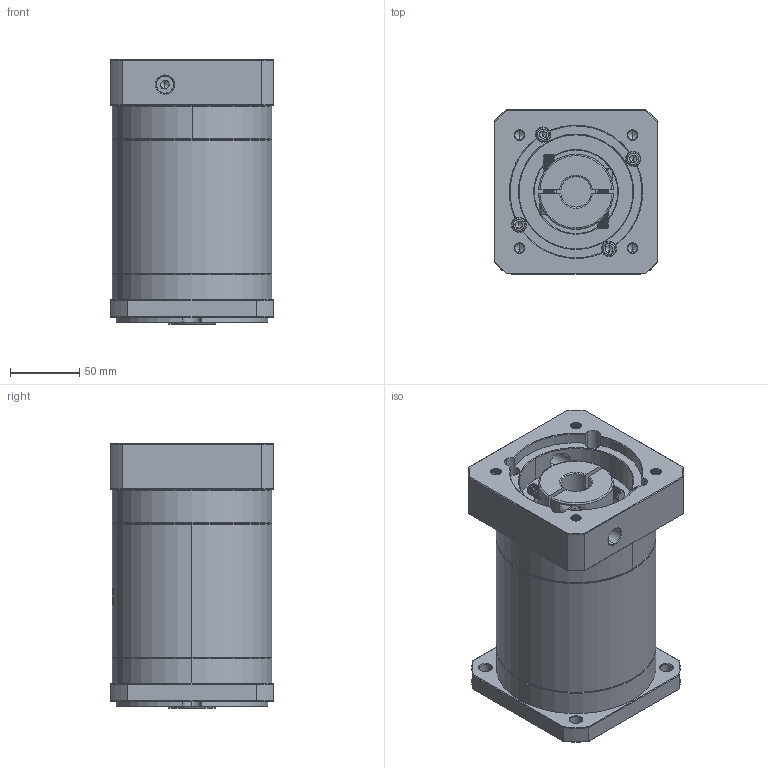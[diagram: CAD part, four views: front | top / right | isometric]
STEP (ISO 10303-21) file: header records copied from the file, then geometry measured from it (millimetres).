
FILE_DESCRIPTION (( 'STEP AP214' ), '1' );
FILE_NAME ('ZF120A-K25-L3-P2-22-95-115-M8.step', '2023-08-27T04:53:26', ( '' ), ( '' ), 'SwSTEP 2.0', 'SolidWorks 2016', '' );
FILE_SCHEMA (( 'AUTOMOTIVE_DESIGN' ));
Length unit declared in the file: millimetre
Products named in the file (1): ZF120A-K25-L3-P2-22-95-115-M8
Bounding box: 118 x 118 x 190.5 mm (x, y, z)
Volume: 1906162 mm3; surface area: 178039.9 mm2
Topology: 6 solids, 6 shells, 2178 faces, 5798 edges, 3721 vertices
Faces by surface type: plane 1027, bspline 430, cylinder 396, cone 325
Entity records: 117879 total; most frequent: CARTESIAN_POINT 45020, ORIENTED_EDGE 11540, DIRECTION 8352, EDGE_CURVE 5770, VERTEX_POINT 3721, VECTOR 3046, LINE 3046, AXIS2_PLACEMENT_3D 2653
